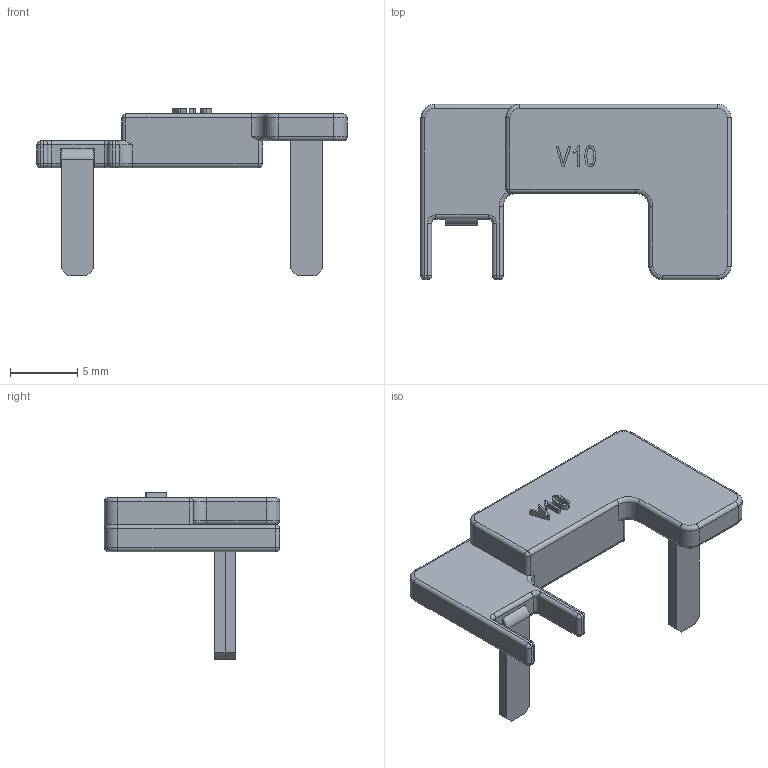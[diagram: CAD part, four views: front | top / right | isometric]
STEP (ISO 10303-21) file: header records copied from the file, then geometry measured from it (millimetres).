
FILE_DESCRIPTION (( 'STEP AP214' ), '1' );
FILE_NAME ('V10.STEP', '2024-04-23T09:52:30', ( '' ), ( '' ), 'SwSTEP 2.0', 'SolidWorks 2022', '' );
FILE_SCHEMA (( 'AUTOMOTIVE_DESIGN' ));
Length unit declared in the file: millimetre
Products named in the file (1): V10
Bounding box: 23 x 13 x 12.4 mm (x, y, z)
Volume: 548.6 mm3; surface area: 969 mm2
Topology: 1 solids, 1 shells, 207 faces, 523 edges, 306 vertices
Faces by surface type: plane 96, cylinder 66, torus 21, bspline 13, sphere 11
Entity records: 7175 total; most frequent: CARTESIAN_POINT 1763, ORIENTED_EDGE 1024, DIRECTION 1020, EDGE_CURVE 512, AXIS2_PLACEMENT_3D 345, LINE 330, VECTOR 330, VERTEX_POINT 306
